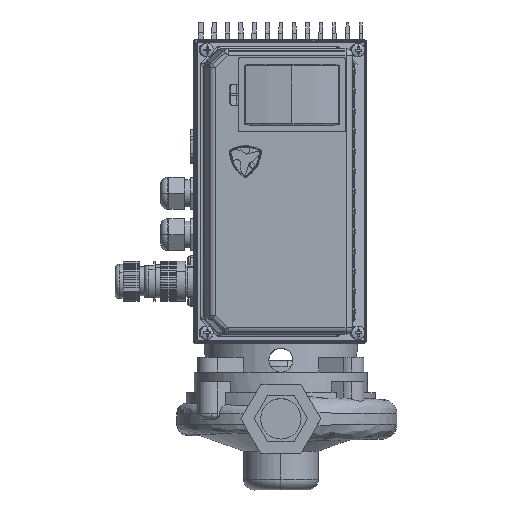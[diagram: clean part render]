
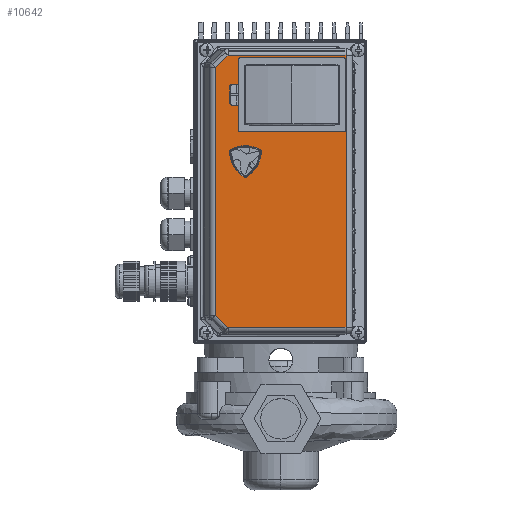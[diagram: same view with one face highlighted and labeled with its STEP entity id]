
A CAD part, top view. The second image highlights one B-rep face of the part: STEP entity #10642.
In plain terms, the highlighted planar face has unit normal (0, 0, 1) as drawn and (0, 0.276, -0.961) by its records, which use the part's own axes.
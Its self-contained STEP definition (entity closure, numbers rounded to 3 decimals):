
#10642=ADVANCED_FACE('',(#21352,#21353),#21354,.F.);
#21352=FACE_BOUND('',#38172,.T.);
#21353=FACE_OUTER_BOUND('',#38173,.T.);
#21354=PLANE('',#38174);
#38172=EDGE_LOOP('',(#60186,#60187,#60188,#60189));
#38173=EDGE_LOOP('',(#60190,#60191,#60192,#60193,#60194,#60195));
#38174=AXIS2_PLACEMENT_3D('',#60196,#60197,#60198);
#60186=ORIENTED_EDGE('',*,*,#70169,.T.);
#60187=ORIENTED_EDGE('',*,*,#70170,.T.);
#60188=ORIENTED_EDGE('',*,*,#70171,.T.);
#60189=ORIENTED_EDGE('',*,*,#70172,.T.);
#60190=ORIENTED_EDGE('',*,*,#70102,.F.);
#60191=ORIENTED_EDGE('',*,*,#70138,.F.);
#60192=ORIENTED_EDGE('',*,*,#70173,.T.);
#60193=ORIENTED_EDGE('',*,*,#70061,.F.);
#60194=ORIENTED_EDGE('',*,*,#70174,.F.);
#60195=ORIENTED_EDGE('',*,*,#70175,.F.);
#60196=CARTESIAN_POINT('',(0.,10.301,61.695));
#60197=DIRECTION('',(0.0,-0.276,0.961));
#60198=DIRECTION('',(-0.0,0.961,0.276));
#70061=EDGE_CURVE('',#79052,#79054,#79055,.T.);
#70102=EDGE_CURVE('',#79121,#79123,#79124,.T.);
#70138=EDGE_CURVE('',#79171,#79121,#79173,.T.);
#70169=EDGE_CURVE('',#79209,#79210,#79211,.T.);
#70170=EDGE_CURVE('',#79210,#79212,#79213,.T.);
#70171=EDGE_CURVE('',#79212,#79214,#79215,.T.);
#70172=EDGE_CURVE('',#79214,#79209,#79216,.T.);
#70173=EDGE_CURVE('',#79171,#79054,#79217,.T.);
#70174=EDGE_CURVE('',#79218,#79052,#79219,.T.);
#70175=EDGE_CURVE('',#79123,#79218,#79220,.T.);
#79052=VERTEX_POINT('',#92951);
#79054=VERTEX_POINT('',#92953);
#79055=LINE('',#92954,#92955);
#79121=VERTEX_POINT('',#93036);
#79123=VERTEX_POINT('',#93038);
#79124=LINE('',#93039,#93040);
#79171=VERTEX_POINT('',#93094);
#79173=LINE('',#93096,#93097);
#79209=VERTEX_POINT('',#93138);
#79210=VERTEX_POINT('',#93139);
#79211=LINE('',#93140,#93141);
#79212=VERTEX_POINT('',#93142);
#79213=LINE('',#93143,#93144);
#79214=VERTEX_POINT('',#93145);
#79215=LINE('',#93146,#93147);
#79216=LINE('',#93148,#93149);
#79217=LINE('',#93150,#93151);
#79218=VERTEX_POINT('',#93152);
#79219=LINE('',#93153,#93154);
#79220=LINE('',#93155,#93156);
#92951=CARTESIAN_POINT('',(-102.0,48.307,72.593));
#92953=CARTESIAN_POINT('',(-102.0,-36.776,48.195));
#92954=CARTESIAN_POINT('',(-102.0,-27.524,50.848));
#92955=VECTOR('',#102203,1.0);
#93036=CARTESIAN_POINT('',(102.0,48.307,72.593));
#93038=CARTESIAN_POINT('',(92.929,57.378,75.194));
#93039=CARTESIAN_POINT('',(83.993,66.314,77.756));
#93040=VECTOR('',#102270,1.);
#93094=CARTESIAN_POINT('',(102.0,-36.776,48.195));
#93096=CARTESIAN_POINT('',(102.0,-27.524,50.848));
#93097=VECTOR('',#102335,1.);
#93138=CARTESIAN_POINT('',(-95.,-31.008,49.849));
#93139=CARTESIAN_POINT('',(-50.,-31.008,49.849));
#93140=CARTESIAN_POINT('',(-36.25,-31.008,49.849));
#93141=VECTOR('',#102383,1.0);
#93142=CARTESIAN_POINT('',(-50.,35.319,68.868));
#93143=CARTESIAN_POINT('',(-50.,6.228,60.527));
#93144=VECTOR('',#102384,1.);
#93145=CARTESIAN_POINT('',(-95.,35.319,68.868));
#93146=CARTESIAN_POINT('',(-36.25,35.319,68.868));
#93147=VECTOR('',#102385,1.0);
#93148=CARTESIAN_POINT('',(-95.,6.228,60.527));
#93149=VECTOR('',#102386,1.);
#93150=CARTESIAN_POINT('',(0.,-36.776,48.195));
#93151=VECTOR('',#102387,1.0);
#93152=CARTESIAN_POINT('',(-92.929,57.378,75.194));
#93153=CARTESIAN_POINT('',(-83.993,66.314,77.756));
#93154=VECTOR('',#102388,1.0);
#93155=CARTESIAN_POINT('',(0.,57.378,75.194));
#93156=VECTOR('',#102389,1.0);
#102203=DIRECTION('',(0.,-0.961,-0.276));
#102270=DIRECTION('',(-0.693,0.693,0.199));
#102335=DIRECTION('',(0.,0.961,0.276));
#102383=DIRECTION('',(1.0,0.,0.));
#102384=DIRECTION('',(-0.0,0.961,0.276));
#102385=DIRECTION('',(-1.0,0.,0.));
#102386=DIRECTION('',(-0.0,-0.961,-0.276));
#102387=DIRECTION('',(-1.0,0.0,0.0));
#102388=DIRECTION('',(-0.693,-0.693,-0.199));
#102389=DIRECTION('',(-1.0,0.0,0.0));
